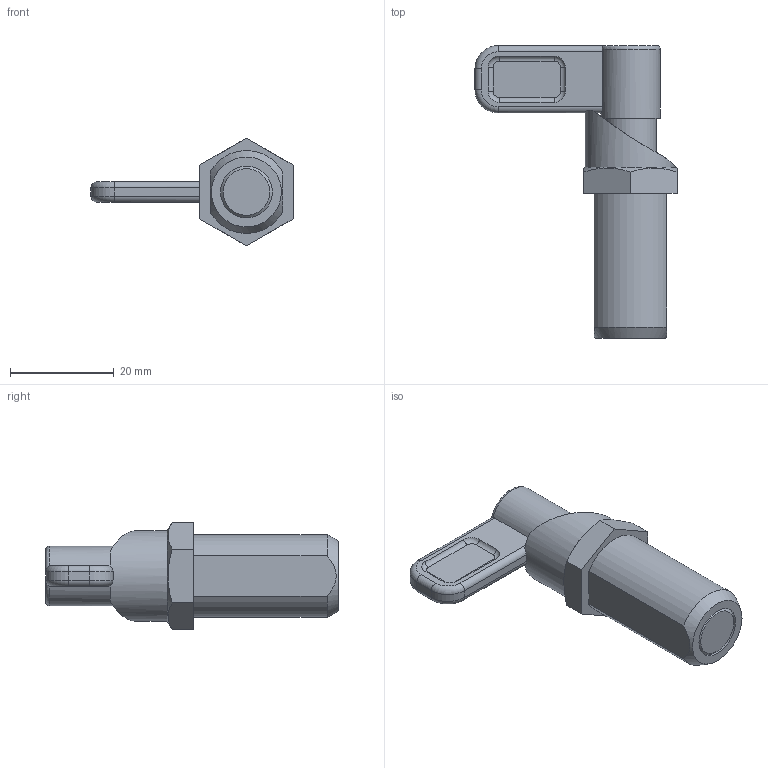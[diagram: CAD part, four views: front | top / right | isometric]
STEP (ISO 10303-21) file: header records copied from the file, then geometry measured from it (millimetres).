
FILE_DESCRIPTION( ( 'STEP AP203' ), '1' );
FILE_NAME( 'C:/Temp/Ganter_Step_05_03_2020/data/3_1/gn_612.8/gn612_8_a/Indexing plunger GN 612.8-10-M16x1,5-A (activated).stp', '2020-03-12T09:12:24', ( 'License CC BY-ND 4.0' ), ( 'CADENAS' ), ' ', 'PARTsolutions', ' ' );
FILE_SCHEMA( ( 'CONFIG_CONTROL_DESIGN' ) );
Length unit declared in the file: millimetre
Products named in the file (3): Indexing plunger GN 612.8-10-M16x1,5-A (activated); _Indexing plunger GN 612.8-10-M16x1,5-A (2)_2; _Rastriegel GN 612.8-10-M16x1,5-A (2)_1
Assembly tree (2 placements, depth 2):
  Indexing plunger GN 612.8-10-M16x1,5-A (activated)
    _Indexing plunger GN 612.8-10-M16x1,5-A (2)_2
    _Rastriegel GN 612.8-10-M16x1,5-A (2)_1
Bounding box: 39 x 56.5 x 20.78 mm (x, y, z)
Volume: 10402.7 mm3; surface area: 6563.2 mm2
Topology: 2 solids, 2 shells, 74 faces, 172 edges, 111 vertices
Faces by surface type: cylinder 31, plane 27, torus 13, cone 3
Full cylindrical faces by diameter (mm): 10 x4, 11 x2, 11.5 x1, 12.5 x1, 17.5 x1
Entity records: 2470 total; most frequent: CARTESIAN_POINT 710, DIRECTION 362, ORIENTED_EDGE 316, EDGE_CURVE 158, AXIS2_PLACEMENT_3D 152, VERTEX_POINT 108, EDGE_LOOP 96, FACE_OUTER_BOUND 82
